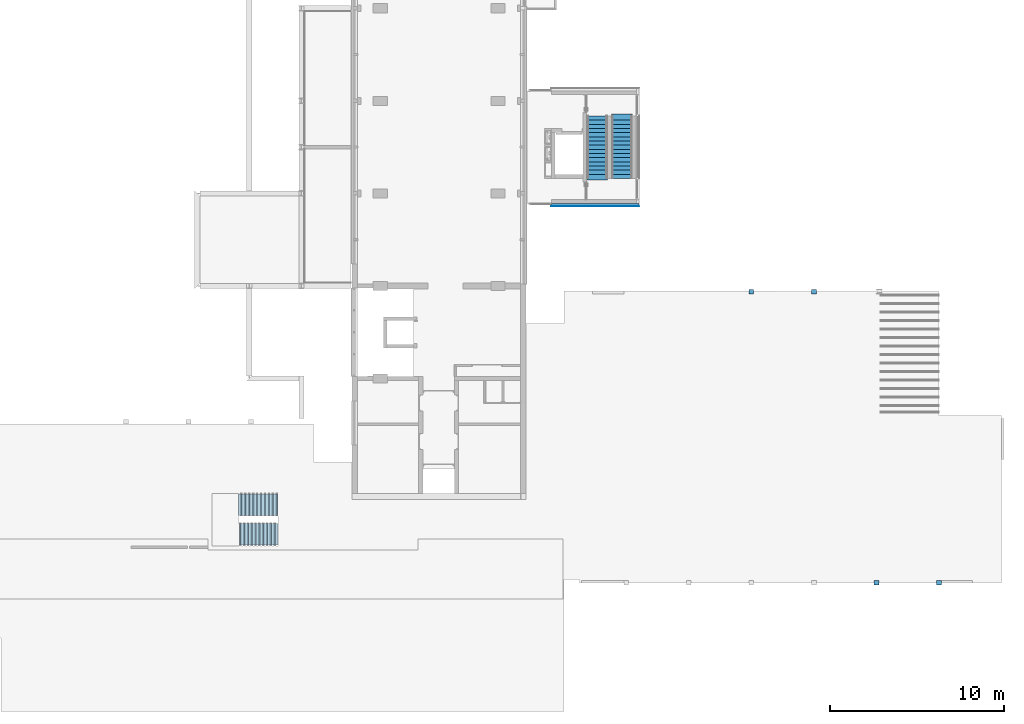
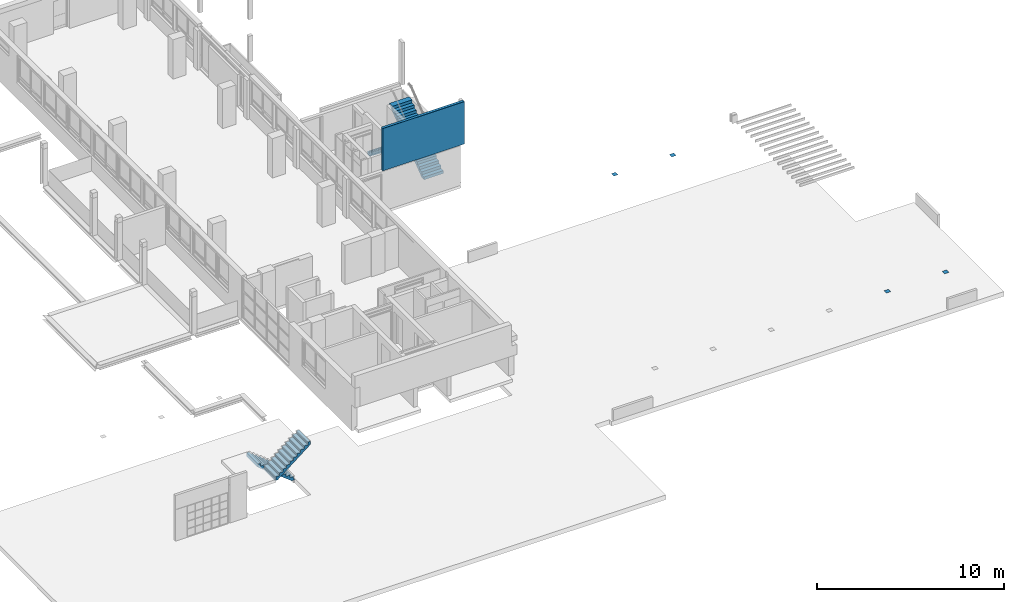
# One storey, part 14 of 22: 4 stair flights, 4 walls, 3 building element parts, 5 elements without a shape of their own.
"""IFC2X3 building model written with IfcOpenShell, lengths in millimetres."""

from ifc_helpers import new_model, entity, si_unit, converted_unit, derived_unit, money_unit, direction, frame, origin_with_axes, place, context, subcontext, project, spatial, faceted_brep, material, type_object, element, aggregate, save


model = new_model("IFC2X3")

# Units and contexts
model_context = context("Model", 3, precision=0.01, world=origin_with_axes(), true_north=direction((0.0, 1.0)))
body_context = subcontext(model_context, "Body", "Model", "MODEL_VIEW")
ifc_project = project(units=[si_unit("LENGTHUNIT", "METRE", prefix="MILLI"), si_unit("AREAUNIT", "SQUARE_METRE"), si_unit("VOLUMEUNIT", "CUBIC_METRE"), converted_unit("PLANEANGLEUNIT", "DEGREE", entity("IfcPlaneAngleMeasure", 0.0174532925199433), si_unit("PLANEANGLEUNIT", "RADIAN"), dimensions=[0, 0, 0, 0, 0, 0, 0]), money_unit("EUR"), converted_unit("TIMEUNIT", "Year", entity("IfcTimeMeasure", 31557600.0), si_unit("TIMEUNIT", "SECOND"), dimensions=[0, 0, 1, 0, 0, 0, 0]), si_unit("MASSUNIT", "GRAM", prefix="KILO"), si_unit("THERMODYNAMICTEMPERATUREUNIT", "DEGREE_CELSIUS"), si_unit("LUMINOUSINTENSITYUNIT", "LUMEN"), si_unit("ENERGYUNIT", "JOULE", prefix="MEGA"), derived_unit("THERMALCONDUCTANCEUNIT", [(si_unit("POWERUNIT", "WATT"), 1), (si_unit("LENGTHUNIT", "METRE"), -1), (si_unit("THERMODYNAMICTEMPERATUREUNIT", "KELVIN"), -1)]), derived_unit("SPECIFICHEATCAPACITYUNIT", [(si_unit("ENERGYUNIT", "JOULE"), 1), (si_unit("MASSUNIT", "GRAM", prefix="KILO"), -1), (si_unit("THERMODYNAMICTEMPERATUREUNIT", "KELVIN"), -1)]), derived_unit("MASSDENSITYUNIT", [(si_unit("MASSUNIT", "GRAM", prefix="KILO"), 1), (si_unit("VOLUMEUNIT", "CUBIC_METRE"), -1)])], contexts=[model_context])

# Site, building, storey
site_placement = place(None, origin_with_axes())
site = spatial("IfcSite", under=ifc_project, at=site_placement, Name="Site", CompositionType="ELEMENT")
building_placement = place(site_placement, origin_with_axes())
building = spatial("IfcBuilding", under=site, at=building_placement, Name="Naam gebouw", CompositionType="ELEMENT")
storey_placement = place(building_placement, frame((0.0, 0.0, 8690.0), z_axis=(0.0, 0.0, 1.0), x_axis=(1.0, 0.0, 0.0)))
storey = spatial("IfcBuildingStorey", under=building, at=storey_placement, Name="2e verdieping V", CompositionType="ELEMENT", Elevation=8690.0)

# Walls
ifc_material_1 = material(Name="ALG - CONSTRUCTIEF")
wall_type_1 = type_object("IfcWallType", Name="ALG - CONSTRUCTIEF 260", PredefinedType="NOTDEFINED")
for number, where, z_axis, x_axis, name in (
    (1, (50537.49999999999, 10730.9124251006, 1500.0), (0.0, 0.0, 1.0), (-1.0, 0.0, 0.0), "_Wand-x"),
    (2, (54137.49999999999, 10730.9124251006, 1500.0), (0.0, 0.0, 1.0), (-1.0, 0.0, 0.0), "_Wand-x"),
):
    element("IfcWall", number, at=place(storey_placement, frame(where, z_axis=z_axis, x_axis=x_axis)), inside=storey, type_object=wall_type_1, material=ifc_material_1, Name=name, context=body_context, shape_type="Brep", body=[
        faceted_brep([(0.0, -259.9999999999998, 0.9999999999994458), (275.0000000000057, -259.9999999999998, 0.9999999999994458), (275.0000000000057, 0.0, 0.9999999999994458), (0.0, 0.0, 0.9999999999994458), (0.0, -259.9999999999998, 0.0), (275.0000000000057, -259.9999999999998, 0.0), (275.0000000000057, 0.0, 0.0), (0.0, 0.0, 0.0)], [[[0, 1, 2, 3]], [[4, 5, 1, 0]], [[2, 1, 5, 6]], [[3, 2, 6, 7]], [[4, 0, 3, 7]], [[7, 6, 5, 4]]]),
    ])
for number, where, z_axis, x_axis, name in (
    (3, (43337.49999999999, 27765.91242510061, 1500.0), (0.0, 0.0, 1.0), (-1.0, 0.0, 0.0), "_Wand-x"),
    (4, (46937.49999999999, 27765.91242510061, 1500.0), (0.0, 0.0, 1.0), (-1.0, 0.0, 0.0), "_Wand-x"),
):
    element("IfcWall", number, at=place(storey_placement, frame(where, z_axis=z_axis, x_axis=x_axis)), inside=storey, type_object=wall_type_1, material=ifc_material_1, Name=name, context=body_context, shape_type="Brep", body=[
        faceted_brep([(0.0, 260.0000000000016, 0.0), (275.0000000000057, 260.0000000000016, 0.0), (275.0000000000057, 0.0, 0.0), (0.0, 0.0, 0.0), (0.0, 260.0000000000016, 0.9999999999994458), (275.0000000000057, 260.0000000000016, 0.9999999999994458), (275.0000000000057, 0.0, 0.9999999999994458), (0.0, 0.0, 0.9999999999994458)], [[[0, 1, 2, 3]], [[4, 5, 1, 0]], [[2, 1, 5, 6]], [[3, 2, 6, 7]], [[4, 0, 3, 7]], [[7, 6, 5, 4]]]),
    ])

# Stair, stair flight
stair_1_placement = place(storey_placement, frame((13740.50051848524, 14274.60803964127, 710.0000000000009), z_axis=(0.0, 0.0, 1.0), x_axis=(-1.0, 0.0, 0.0)))
stair_1 = element("IfcStair", 5, at=stair_1_placement, inside=storey, Name="_Trap-x", ShapeType="NOTDEFINED")
ifc_material_2 = material(Name="Beton C")
stair_flight_type_1 = type_object("IfcStairFlightType", Name="IfcStairFlight", PredefinedType="NOTDEFINED")
stair_flight_1_placement = place(stair_1_placement, origin_with_axes())
stair_flight_1 = element("IfcStairFlight", 6, at=stair_flight_1_placement, type_object=stair_flight_type_1, material=ifc_material_2, Name="_Trapsegment-x", context=body_context, shape_type="Brep", body=[
    faceted_brep([(0.0, 0.0, -99.99999999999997), (0.0, 1240.0, -99.99999999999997), (0.0, 1240.0, -38.00000000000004), (0.0, 0.0, -38.00000000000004), (-172.920929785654, 1240.0, -99.99999999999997), (-172.9209297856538, 0.0, -99.99999999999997), (-2053.333333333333, 1240.0, 1395.782593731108), (-2126.666666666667, 1240.0, 1454.115927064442), (-2200.0, 1240.0, 1512.449260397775), (-2200.0, 1240.0, 1712.0), (-2038.1, 1240.0, 1712.0), (-2038.1, 1240.0, 1537.0), (-1818.1, 1240.0, 1537.0), (-1818.1, 1240.0, 1362.0), (-1598.1, 1240.0, 1362.0), (-1598.1, 1240.0, 1187.0), (-1378.1, 1240.0, 1187.0), (-1378.1, 1240.0, 1012.0), (-1158.1, 1240.0, 1012.0), (-1158.1, 1240.0, 837.0), (-938.1000000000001, 1240.0, 837.0), (-938.1000000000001, 1240.0, 661.9999999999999), (-718.1000000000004, 1240.0, 661.9999999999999), (-718.1000000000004, 1240.0, 486.9999999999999), (-498.1000000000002, 1240.0, 486.9999999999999), (-498.1000000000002, 1240.0, 312.0000000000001), (-278.1000000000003, 1240.0, 312.0000000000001), (-278.1000000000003, 1240.0, 137.0), (-58.10000000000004, 1240.0, 137.0), (-58.10000000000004, 1240.0, -38.00000000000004), (-220.0000000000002, 1240.0, -62.55073960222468), (-293.3333333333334, 1240.0, -4.217406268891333), (-366.6666666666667, 1240.0, 54.11592706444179), (-440.0000000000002, 1240.0, 112.4492603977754), (-513.3333333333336, 1240.0, 170.7825937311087), (-586.6666666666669, 1240.0, 229.115927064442), (-660.0000000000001, 1240.0, 287.4492603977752), (-733.3333333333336, 1240.0, 345.7825937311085), (-806.6666666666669, 1240.0, 404.1159270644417), (-880.0000000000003, 1240.0, 462.4492603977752), (-953.3333333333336, 1240.0, 520.7825937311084), (-1026.666666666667, 1240.0, 579.1159270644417), (-1100.0, 1240.0, 637.4492603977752), (-1173.333333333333, 1240.0, 695.7825937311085), (-1246.666666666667, 1240.0, 754.1159270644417), (-1320.0, 1240.0, 812.4492603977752), (-1393.333333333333, 1240.0, 870.7825937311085), (-1466.666666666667, 1240.0, 929.1159270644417), (-1540.0, 1240.0, 987.4492603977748), (-1613.333333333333, 1240.0, 1045.782593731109), (-1686.666666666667, 1240.0, 1104.115927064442), (-1760.0, 1240.0, 1162.449260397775), (-1833.333333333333, 1240.0, 1220.782593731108), (-1906.666666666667, 1240.0, 1279.115927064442), (-1980.0, 1240.0, 1337.449260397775), (-58.10000000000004, 0.0, -38.00000000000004), (-58.10000000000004, 0.0, 137.0), (-278.1, 0.0, 137.0), (-278.1, 0.0, 312.0000000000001), (-498.1, 0.0, 312.0000000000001), (-498.1, 0.0, 486.9999999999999), (-718.1000000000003, 0.0, 486.9999999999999), (-718.1000000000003, 0.0, 661.9999999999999), (-938.1, 0.0, 661.9999999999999), (-938.1, 0.0, 837.0), (-1158.1, 0.0, 837.0), (-1158.1, 0.0, 1012.0), (-1378.1, 0.0, 1012.0), (-1378.1, 0.0, 1187.0), (-1598.1, 0.0, 1187.0), (-1598.1, 0.0, 1362.0), (-1818.1, 0.0, 1362.0), (-1818.1, 0.0, 1537.0), (-2038.1, 0.0, 1537.0), (-2038.1, 0.0, 1712.0), (-2200.0, 0.0, 1712.0), (-2200.0, 0.0, 1512.449260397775), (-2126.666666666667, 0.0, 1454.115927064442), (-2053.333333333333, 0.0, 1395.782593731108), (-1980.0, 0.0, 1337.449260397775), (-1906.666666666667, 0.0, 1279.115927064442), (-1833.333333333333, 0.0, 1220.782593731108), (-1760.0, 0.0, 1162.449260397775), (-1686.666666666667, 0.0, 1104.115927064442), (-1613.333333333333, 0.0, 1045.782593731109), (-1540.0, 0.0, 987.4492603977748), (-1466.666666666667, 0.0, 929.1159270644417), (-1393.333333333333, 0.0, 870.7825937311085), (-1320.0, 0.0, 812.4492603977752), (-1246.666666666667, 0.0, 754.1159270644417), (-1173.333333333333, 0.0, 695.7825937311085), (-1100.0, 0.0, 637.4492603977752), (-1026.666666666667, 0.0, 579.1159270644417), (-953.3333333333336, 0.0, 520.7825937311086), (-880.0000000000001, 0.0, 462.4492603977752), (-806.6666666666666, 0.0, 404.1159270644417), (-733.3333333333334, 0.0, 345.7825937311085), (-660.0000000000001, 0.0, 287.4492603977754), (-586.6666666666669, 0.0, 229.115927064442), (-513.3333333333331, 0.0, 170.7825937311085), (-439.9999999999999, 0.0, 112.4492603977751), (-366.6666666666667, 0.0, 54.11592706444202), (-293.3333333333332, 0.0, -4.217406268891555), (-220.0, 0.0, -62.55073960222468)], [[[0, 1, 2, 3]], [[4, 1, 0, 5]], [[6, 7, 8, 9, 10, 11, 12, 13, 14, 15, 16, 17, 18, 19, 20, 21, 22, 23, 24, 25, 26, 27, 28, 29, 2, 1, 4, 30, 31, 32, 33, 34, 35, 36, 37, 38, 39, 40, 41, 42, 43, 44, 45, 46, 47, 48, 49, 50, 51, 52, 53, 54]], [[29, 55, 3, 2]], [[5, 0, 3, 55, 56, 57, 58, 59, 60, 61, 62, 63, 64, 65, 66, 67, 68, 69, 70, 71, 72, 73, 74, 75, 76, 77, 78, 79, 80, 81, 82, 83, 84, 85, 86, 87, 88, 89, 90, 91, 92, 93, 94, 95, 96, 97, 98, 99, 100, 101, 102, 103]], [[103, 30, 4, 5]], [[77, 7, 6, 78]], [[76, 8, 7, 77]], [[9, 8, 76, 75]], [[9, 75, 74, 10]], [[74, 73, 11, 10]], [[73, 72, 12, 11]], [[72, 71, 13, 12]], [[71, 70, 14, 13]], [[70, 69, 15, 14]], [[69, 68, 16, 15]], [[68, 67, 17, 16]], [[67, 66, 18, 17]], [[66, 65, 19, 18]], [[65, 64, 20, 19]], [[64, 63, 21, 20]], [[63, 62, 22, 21]], [[62, 61, 23, 22]], [[61, 60, 24, 23]], [[60, 59, 25, 24]], [[59, 58, 26, 25]], [[58, 57, 27, 26]], [[57, 56, 28, 27]], [[56, 55, 29, 28]], [[102, 31, 30, 103]], [[101, 32, 31, 102]], [[100, 33, 32, 101]], [[99, 34, 33, 100]], [[98, 35, 34, 99]], [[97, 36, 35, 98]], [[96, 37, 36, 97]], [[95, 38, 37, 96]], [[94, 39, 38, 95]], [[93, 40, 39, 94]], [[92, 41, 40, 93]], [[91, 42, 41, 92]], [[90, 43, 42, 91]], [[89, 44, 43, 90]], [[88, 45, 44, 89]], [[87, 46, 45, 88]], [[86, 47, 46, 87]], [[85, 48, 47, 86]], [[84, 49, 48, 85]], [[83, 50, 49, 84]], [[82, 51, 50, 83]], [[81, 52, 51, 82]], [[80, 53, 52, 81]], [[79, 54, 53, 80]], [[78, 6, 54, 79]]]),
])
aggregate(stair_1, [stair_flight_1])

stair_2_placement = place(storey_placement, frame((15940.50051848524, 14745.86936824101, -1039.999999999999), z_axis=(0.0, 0.0, 1.0), x_axis=(1.0, 0.0, 0.0)))
stair_2 = element("IfcStair", 7, at=stair_2_placement, inside=storey, Name="_Trap-x", ShapeType="NOTDEFINED")
stair_flight_2_placement = place(stair_2_placement, origin_with_axes())
stair_flight_2 = element("IfcStairFlight", 8, at=stair_flight_2_placement, type_object=stair_flight_type_1, material=ifc_material_2, Name="_Trapsegment-x", context=body_context, shape_type="Brep", body=[
    faceted_brep([(0.0, 0.0, -99.99999999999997), (0.0, 1240.0, -99.99999999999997), (0.0, 1240.0, -38.00000000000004), (0.0, 0.0, -38.00000000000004), (-174.2201308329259, 1240.0, -99.99999999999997), (-174.2201308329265, 0.0, -99.99999999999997), (-2118.666666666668, 1240.000000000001, 1399.02265978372), (-2194.333333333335, 1240.000000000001, 1457.355993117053), (-2270.000000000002, 1240.000000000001, 1515.689326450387), (-2270.000000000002, 1240.000000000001, 1712.0), (-2101.100000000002, 1240.000000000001, 1712.0), (-2101.100000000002, 1240.000000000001, 1537.0), (-1874.100000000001, 1240.000000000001, 1537.0), (-1874.100000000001, 1240.000000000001, 1362.0), (-1647.100000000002, 1240.000000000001, 1362.0), (-1647.100000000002, 1240.000000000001, 1187.0), (-1420.100000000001, 1240.000000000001, 1187.0), (-1420.100000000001, 1240.000000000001, 1012.0), (-1193.100000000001, 1240.000000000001, 1012.0), (-1193.100000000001, 1240.000000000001, 837.0), (-966.1000000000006, 1240.000000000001, 837.0), (-966.1000000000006, 1240.000000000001, 661.9999999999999), (-739.1000000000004, 1240.000000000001, 661.9999999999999), (-739.1000000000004, 1240.000000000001, 486.9999999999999), (-512.1, 1240.0, 486.9999999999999), (-512.1, 1240.0, 312.0000000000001), (-285.0999999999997, 1240.0, 312.0000000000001), (-285.0999999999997, 1240.0, 137.0), (-58.09999999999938, 1240.0, 137.0), (-58.09999999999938, 1240.0, -38.00000000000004), (-226.9999999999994, 1240.0, -59.31067354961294), (-302.6666666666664, 1240.000000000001, -0.9773402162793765), (-378.3333333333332, 1240.000000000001, 57.35599311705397), (-453.9999999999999, 1240.000000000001, 115.6893264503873), (-529.6666666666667, 1240.000000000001, 174.0226597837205), (-605.3333333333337, 1240.000000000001, 232.355993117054), (-681.0000000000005, 1240.000000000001, 290.6893264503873), (-756.6666666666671, 1240.000000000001, 349.0226597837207), (-832.3333333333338, 1240.000000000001, 407.3559931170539), (-908.0000000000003, 1240.000000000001, 465.6893264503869), (-983.6666666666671, 1240.000000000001, 524.0226597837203), (-1059.333333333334, 1240.000000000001, 582.3559931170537), (-1135.000000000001, 1240.000000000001, 640.6893264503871), (-1210.666666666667, 1240.000000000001, 699.0226597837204), (-1286.333333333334, 1240.000000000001, 757.3559931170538), (-1362.000000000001, 1240.000000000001, 815.6893264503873), (-1437.666666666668, 1240.000000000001, 874.0226597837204), (-1513.333333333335, 1240.000000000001, 932.3559931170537), (-1589.000000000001, 1240.000000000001, 990.689326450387), (-1664.666666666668, 1240.000000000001, 1049.02265978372), (-1740.333333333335, 1240.000000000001, 1107.355993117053), (-1816.000000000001, 1240.000000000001, 1165.689326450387), (-1891.666666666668, 1240.000000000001, 1224.02265978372), (-1967.333333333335, 1240.000000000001, 1282.355993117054), (-2043.000000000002, 1240.000000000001, 1340.689326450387), (-58.10000000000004, 0.0, -38.00000000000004), (-58.10000000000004, 0.0, 137.0), (-285.1000000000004, 0.0, 137.0), (-285.1000000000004, 0.0, 312.0000000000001), (-512.1000000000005, 0.0, 312.0000000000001), (-512.1000000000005, 0.0, 486.9999999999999), (-739.1000000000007, 0.0, 486.9999999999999), (-739.1000000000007, 0.0, 661.9999999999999), (-966.100000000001, 0.0, 661.9999999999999), (-966.100000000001, 0.0, 837.0), (-1193.100000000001, 0.0, 837.0), (-1193.100000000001, 0.0, 1012.0), (-1420.100000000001, 0.0, 1012.0), (-1420.100000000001, 0.0, 1187.0), (-1647.100000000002, 0.0, 1187.0), (-1647.100000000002, 0.0, 1362.0), (-1874.100000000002, 0.0, 1362.0), (-1874.100000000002, 0.0, 1537.0), (-2101.100000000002, 0.0, 1537.0), (-2101.100000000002, 0.0, 1712.0), (-2270.000000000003, 0.0, 1712.0), (-2270.000000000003, 0.0, 1515.689326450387), (-2194.333333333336, 0.0, 1457.355993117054), (-2118.666666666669, 0.0, 1399.022659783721), (-2043.000000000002, 0.0, 1340.689326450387), (-1967.333333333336, 0.0, 1282.355993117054), (-1891.666666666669, 0.0, 1224.02265978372), (-1816.000000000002, 0.0, 1165.689326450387), (-1740.333333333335, 0.0, 1107.355993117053), (-1664.666666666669, 0.0, 1049.02265978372), (-1589.000000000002, 0.0, 990.6893264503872), (-1513.333333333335, 0.0, 932.3559931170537), (-1437.666666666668, 0.0, 874.0226597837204), (-1362.000000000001, 0.0, 815.6893264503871), (-1286.333333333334, 0.0, 757.3559931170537), (-1210.666666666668, 0.0, 699.0226597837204), (-1135.000000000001, 0.0, 640.6893264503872), (-1059.333333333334, 0.0, 582.3559931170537), (-983.6666666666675, 0.0, 524.0226597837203), (-908.0000000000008, 0.0, 465.6893264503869), (-832.3333333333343, 0.0, 407.3559931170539), (-756.6666666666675, 0.0, 349.0226597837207), (-681.0000000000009, 0.0, 290.6893264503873), (-605.3333333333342, 0.0, 232.355993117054), (-529.6666666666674, 0.0, 174.0226597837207), (-454.0000000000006, 0.0, 115.6893264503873), (-378.3333333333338, 0.0, 57.35599311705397), (-302.6666666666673, 0.0, -0.9773402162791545), (-227.0000000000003, 0.0, -59.31067354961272)], [[[0, 1, 2, 3]], [[4, 1, 0, 5]], [[6, 7, 8, 9, 10, 11, 12, 13, 14, 15, 16, 17, 18, 19, 20, 21, 22, 23, 24, 25, 26, 27, 28, 29, 2, 1, 4, 30, 31, 32, 33, 34, 35, 36, 37, 38, 39, 40, 41, 42, 43, 44, 45, 46, 47, 48, 49, 50, 51, 52, 53, 54]], [[29, 55, 3, 2]], [[5, 0, 3, 55, 56, 57, 58, 59, 60, 61, 62, 63, 64, 65, 66, 67, 68, 69, 70, 71, 72, 73, 74, 75, 76, 77, 78, 79, 80, 81, 82, 83, 84, 85, 86, 87, 88, 89, 90, 91, 92, 93, 94, 95, 96, 97, 98, 99, 100, 101, 102, 103]], [[103, 30, 4, 5]], [[77, 7, 6, 78]], [[76, 8, 7, 77]], [[9, 8, 76, 75]], [[9, 75, 74, 10]], [[74, 73, 11, 10]], [[73, 72, 12, 11]], [[72, 71, 13, 12]], [[71, 70, 14, 13]], [[70, 69, 15, 14]], [[69, 68, 16, 15]], [[68, 67, 17, 16]], [[67, 66, 18, 17]], [[66, 65, 19, 18]], [[65, 64, 20, 19]], [[64, 63, 21, 20]], [[63, 62, 22, 21]], [[62, 61, 23, 22]], [[61, 60, 24, 23]], [[60, 59, 25, 24]], [[59, 58, 26, 25]], [[58, 57, 27, 26]], [[57, 56, 28, 27]], [[56, 55, 29, 28]], [[102, 31, 30, 103]], [[101, 32, 31, 102]], [[100, 33, 32, 101]], [[99, 34, 33, 100]], [[98, 35, 34, 99]], [[97, 36, 35, 98]], [[96, 37, 36, 97]], [[95, 38, 37, 96]], [[94, 39, 38, 95]], [[93, 40, 39, 94]], [[92, 41, 40, 93]], [[91, 42, 41, 92]], [[90, 43, 42, 91]], [[89, 44, 43, 90]], [[88, 45, 44, 89]], [[87, 46, 45, 88]], [[86, 47, 46, 87]], [[85, 48, 47, 86]], [[84, 49, 48, 85]], [[83, 50, 49, 84]], [[82, 51, 50, 83]], [[81, 52, 51, 82]], [[80, 53, 52, 81]], [[79, 54, 53, 80]], [[78, 6, 54, 79]]]),
])
aggregate(stair_2, [stair_flight_2])

stair_3_placement = place(storey_placement, frame((0.0, 0.0, -8690.0), z_axis=(0.0, 0.0, 1.0), x_axis=(1.0, 0.0, 0.0)))
stair_3 = element("IfcStair", 9, at=stair_3_placement, inside=storey, Name="Precast Stair:Stair", ObjectType="Precast Stair:24_trap - prefab", ShapeType="NOTDEFINED")
ifc_material_3 = material(Name="beton")
stair_flight_type_2 = type_object("IfcStairFlightType", Name="Monolithic Run:prefab trap", PredefinedType="STRAIGHT")
stair_flight_3_placement = place(stair_3_placement, frame((34923.00000006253, 34045.91242631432, 8690.0), z_axis=(0.0, 0.0, 1.0), x_axis=(0.0, 1.0, 0.0)))
stair_flight_3 = element("IfcStairFlight", 10, at=stair_flight_3_placement, type_object=stair_flight_type_2, material=ifc_material_3, Name="Precast Stair:Stair:2462923 Run 1", RiserHeight=0.605862, TreadLength=0.787402, context=body_context, shape_type="Brep", body=[
    faceted_brep([(3460.0, 0.0, 184.66666666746), (3700.0, 0.0, 184.66666666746), (3700.0, 1200.0, 184.66666666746), (3460.0, 1200.0, 184.66666666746), (3460.0, 0.0, 0.0), (3700.0, 0.0, 0.0), (3700.0, 1200.0, 0.0), (3460.0, 1200.0, 0.0), (3460.0, 1200.0, 369.33333333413), (3460.0, 0.0, 369.33333333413), (3220.0, 0.0, 369.33333333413), (3220.0, 0.0, 180.06894961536), (3454.02462765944, 0.0, 0.0), (3454.02462765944, 1200.0, 0.0), (3220.0, 1200.0, 180.06894961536), (3220.0, 1200.0, 369.33333333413), (3220.0, 0.0, 554.0), (2980.0, 0.0, 554.0), (2980.0, 0.0, 364.73561628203), (2740.0, 0.0, 549.4022829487), (2500.0, 0.0, 734.06894961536), (2260.0, 0.0, 918.7356162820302), (2020.0, 0.0, 1103.4022829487), (1780.0, 0.0, 1288.06894961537), (1540.0, 0.0, 1472.73561628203), (1300.0, 0.0, 1657.4022829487), (1060.0, 0.0, 1842.06894961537), (820.0000000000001, 0.0, 2026.73561628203), (580.0, 0.0, 2211.4022829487), (340.0, 0.0, 2396.06894961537), (100.0, 0.0, 2580.73561628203), (100.0, 1200.0, 2580.73561628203), (340.0, 1200.0, 2396.06894961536), (580.0, 1200.0, 2211.4022829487), (820.0000000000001, 1200.0, 2026.73561628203), (1060.0, 1200.0, 1842.06894961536), (1300.0, 1200.0, 1657.4022829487), (1540.0, 1200.0, 1472.73561628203), (1780.0, 1200.0, 1288.06894961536), (2020.0, 1200.0, 1103.40228294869), (2260.0, 1200.0, 918.7356162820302), (2500.0, 1200.0, 734.06894961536), (2740.0, 1200.0, 549.40228294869), (2980.0, 1200.0, 364.73561628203), (2980.0, 1200.0, 554.0), (3220.0, 1200.0, 554.0), (2980.0, 0.0, 738.66666666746), (2740.0, 0.0, 738.66666666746), (2740.0, 0.0, 923.3333333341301), (2500.0, 0.0, 923.3333333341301), (2500.0, 0.0, 1108.0), (2260.0, 0.0, 1108.0), (2260.0, 0.0, 1292.66666666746), (2020.0, 0.0, 1292.66666666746), (2020.0, 0.0, 1477.33333333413), (1780.0, 0.0, 1477.33333333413), (1780.0, 0.0, 1662.0), (1540.0, 0.0, 1662.0), (1540.0, 0.0, 1846.66666666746), (1300.0, 0.0, 1846.66666666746), (1300.0, 0.0, 2031.33333333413), (1060.0, 0.0, 2031.33333333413), (1060.0, 0.0, 2216.0), (820.0000000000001, 0.0, 2216.0), (820.0000000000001, 0.0, 2400.66666666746), (580.0, 0.0, 2400.66666666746), (580.0, 0.0, 2585.33333333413), (340.0, 0.0, 2585.33333333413), (340.0, 0.0, 2770.0), (0.0, 0.0, 2770.0), (0.0, 0.0, 2670.0), (100.0, 0.0, 2670.0), (100.0, 1200.0, 2670.0), (0.0, 1200.0, 2770.0), (340.0, 1200.0, 2770.0), (340.0, 1200.0, 2585.33333333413), (0.0, 1200.0, 2670.0), (580.0, 1200.0, 2585.33333333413), (580.0, 1200.0, 2400.66666666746), (820.0000000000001, 1200.0, 2400.66666666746), (820.0000000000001, 1200.0, 2216.0), (1060.0, 1200.0, 2216.0), (1060.0, 1200.0, 2031.33333333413), (1300.0, 1200.0, 2031.33333333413), (1300.0, 1200.0, 1846.66666666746), (1540.0, 1200.0, 1846.66666666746), (1540.0, 1200.0, 1662.0), (1780.0, 1200.0, 1662.0), (1780.0, 1200.0, 1477.33333333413), (2020.0, 1200.0, 1477.33333333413), (2020.0, 1200.0, 1292.66666666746), (2260.0, 1200.0, 1292.66666666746), (2260.0, 1200.0, 1108.0), (2500.0, 1200.0, 1108.0), (2500.0, 1200.0, 923.3333333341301), (2740.0, 1200.0, 923.3333333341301), (2740.0, 1200.0, 738.66666666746), (2980.0, 1200.0, 738.66666666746)], [[[0, 1, 2, 3]], [[1, 0, 4, 5]], [[2, 1, 5, 6]], [[3, 2, 6, 7]], [[0, 3, 8, 9]], [[4, 0, 9, 10, 11, 12]], [[5, 4, 12, 13, 7, 6]], [[3, 7, 13, 14, 15, 8]], [[10, 9, 8, 15]], [[16, 17, 18, 11, 10]], [[13, 12, 11, 18, 19, 20, 21, 22, 23, 24, 25, 26, 27, 28, 29, 30, 31, 32, 33, 34, 35, 36, 37, 38, 39, 40, 41, 42, 43, 14]], [[44, 45, 15, 14, 43]], [[10, 15, 45, 16]], [[17, 16, 45, 44]], [[46, 47, 19, 18, 17]], [[48, 49, 20, 19, 47]], [[50, 51, 21, 20, 49]], [[52, 53, 22, 21, 51]], [[54, 55, 23, 22, 53]], [[56, 57, 24, 23, 55]], [[58, 59, 25, 24, 57]], [[60, 61, 26, 25, 59]], [[62, 63, 27, 26, 61]], [[64, 65, 28, 27, 63]], [[66, 67, 29, 28, 65]], [[68, 69, 70, 71, 30, 29, 67]], [[31, 30, 71, 72]], [[73, 74, 75, 32, 31, 72, 76]], [[75, 77, 78, 33, 32]], [[78, 79, 80, 34, 33]], [[80, 81, 82, 35, 34]], [[82, 83, 84, 36, 35]], [[84, 85, 86, 37, 36]], [[86, 87, 88, 38, 37]], [[88, 89, 90, 39, 38]], [[90, 91, 92, 40, 39]], [[92, 93, 94, 41, 40]], [[94, 95, 96, 42, 41]], [[96, 97, 44, 43, 42]], [[17, 44, 97, 46]], [[47, 46, 97, 96]], [[49, 48, 95, 94]], [[47, 96, 95, 48]], [[51, 50, 93, 92]], [[49, 94, 93, 50]], [[53, 52, 91, 90]], [[51, 92, 91, 52]], [[55, 54, 89, 88]], [[53, 90, 89, 54]], [[57, 56, 87, 86]], [[55, 88, 87, 56]], [[59, 58, 85, 84]], [[57, 86, 85, 58]], [[61, 60, 83, 82]], [[59, 84, 83, 60]], [[63, 62, 81, 80]], [[61, 82, 81, 62]], [[65, 64, 79, 78]], [[63, 80, 79, 64]], [[67, 66, 77, 75]], [[65, 78, 77, 66]], [[68, 74, 73, 69]], [[76, 70, 69, 73]], [[76, 72, 71, 70]], [[67, 75, 74, 68]]]),
])
aggregate(stair_3, [stair_flight_3])

stair_4_placement = place(storey_placement, frame((0.0, 0.0, -8690.0), z_axis=(0.0, 0.0, 1.0), x_axis=(1.0, 0.0, 0.0)))
stair_4 = element("IfcStair", 11, at=stair_4_placement, inside=storey, Name="Precast Stair:Stair", ObjectType="Precast Stair:24_trap - prefab", ShapeType="NOTDEFINED")
stair_flight_4_placement = place(stair_4_placement, frame((36357.00000004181, 34145.91242629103, 8690.0), z_axis=(0.0, 0.0, 1.0), x_axis=(0.0, 1.0, 0.0)))
stair_flight_4 = element("IfcStairFlight", 12, at=stair_flight_4_placement, type_object=stair_flight_type_2, material=ifc_material_3, Name="Precast Stair:Stair:2462910 Run 1", RiserHeight=0.605862, TreadLength=0.787402, context=body_context, shape_type="Brep", body=[
    faceted_brep([(240.0, 1200.0, 184.66666666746), (0.0, 1200.0, 184.66666666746), (0.0, 0.0, 184.66666666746), (240.0, 0.0, 184.66666666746), (240.0, 1200.0, 0.0), (0.0, 1200.0, 0.0), (0.0, 0.0, 0.0), (240.0, 0.0, 0.0), (240.0, 0.0, 369.33333333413), (240.0, 1200.0, 369.33333333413), (480.0000000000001, 1200.0, 369.33333333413), (480.0000000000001, 1200.0, 180.06894961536), (245.97537234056, 1200.0, 0.0), (245.97537234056, 0.0, 0.0), (480.0000000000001, 0.0, 180.06894961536), (480.0000000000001, 0.0, 369.33333333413), (480.0000000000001, 1200.0, 554.0), (720.0000000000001, 1200.0, 554.0), (720.0000000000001, 1200.0, 364.73561628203), (960.0, 1200.0, 549.4022829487), (1200.0, 1200.0, 734.06894961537), (1440.0, 1200.0, 918.7356162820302), (1680.0, 1200.0, 1103.4022829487), (1920.0, 1200.0, 1288.06894961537), (2160.0, 1200.0, 1472.73561628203), (2400.0, 1200.0, 1657.4022829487), (2640.0, 1200.0, 1842.06894961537), (2880.0, 1200.0, 2026.73561628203), (3120.0, 1200.0, 2211.4022829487), (3360.0, 1200.0, 2396.06894961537), (3600.0, 1200.0, 2580.73561628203), (3600.0, 0.0, 2580.73561628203), (3360.0, 0.0, 2396.06894961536), (3120.0, 0.0, 2211.4022829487), (2880.0, 0.0, 2026.73561628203), (2640.0, 0.0, 1842.06894961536), (2400.0, 0.0, 1657.4022829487), (2160.0, 0.0, 1472.73561628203), (1920.0, 0.0, 1288.06894961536), (1680.0, 0.0, 1103.40228294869), (1440.0, 0.0, 918.7356162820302), (1200.0, 0.0, 734.06894961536), (960.0, 0.0, 549.40228294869), (720.0000000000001, 0.0, 364.73561628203), (720.0000000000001, 0.0, 554.0), (480.0000000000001, 0.0, 554.0), (720.0000000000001, 1200.0, 738.66666666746), (960.0, 1200.0, 738.66666666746), (960.0, 1200.0, 923.3333333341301), (1200.0, 1200.0, 923.3333333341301), (1200.0, 1200.0, 1108.0), (1440.0, 1200.0, 1108.0), (1440.0, 1200.0, 1292.66666666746), (1680.0, 1200.0, 1292.66666666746), (1680.0, 1200.0, 1477.33333333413), (1920.0, 1200.0, 1477.33333333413), (1920.0, 1200.0, 1662.0), (2160.0, 1200.0, 1662.0), (2160.0, 1200.0, 1846.66666666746), (2400.0, 1200.0, 1846.66666666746), (2400.0, 1200.0, 2031.33333333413), (2640.0, 1200.0, 2031.33333333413), (2640.0, 1200.0, 2216.0), (2880.0, 1200.0, 2216.0), (2880.0, 1200.0, 2400.66666666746), (3120.0, 1200.0, 2400.66666666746), (3120.0, 1200.0, 2585.33333333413), (3360.0, 1200.0, 2585.33333333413), (3360.0, 1200.0, 2770.0), (3700.0, 1200.0, 2770.0), (3700.0, 1200.0, 2670.0), (3600.0, 1200.0, 2670.0), (3600.0, 0.0, 2670.0), (3700.0, 0.0, 2770.0), (3360.0, 0.0, 2770.0), (3360.0, 0.0, 2585.33333333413), (3700.0, 0.0, 2670.0), (3120.0, 0.0, 2585.33333333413), (3120.0, 0.0, 2400.66666666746), (2880.0, 0.0, 2400.66666666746), (2880.0, 0.0, 2216.0), (2640.0, 0.0, 2216.0), (2640.0, 0.0, 2031.33333333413), (2400.0, 0.0, 2031.33333333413), (2400.0, 0.0, 1846.66666666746), (2160.0, 0.0, 1846.66666666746), (2160.0, 0.0, 1662.0), (1920.0, 0.0, 1662.0), (1920.0, 0.0, 1477.33333333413), (1680.0, 0.0, 1477.33333333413), (1680.0, 0.0, 1292.66666666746), (1440.0, 0.0, 1292.66666666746), (1440.0, 0.0, 1108.0), (1200.0, 0.0, 1108.0), (1200.0, 0.0, 923.3333333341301), (960.0, 0.0, 923.3333333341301), (960.0, 0.0, 738.66666666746), (720.0000000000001, 0.0, 738.66666666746)], [[[0, 1, 2, 3]], [[1, 0, 4, 5]], [[2, 1, 5, 6]], [[3, 2, 6, 7]], [[0, 3, 8, 9]], [[4, 0, 9, 10, 11, 12]], [[5, 4, 12, 13, 7, 6]], [[3, 7, 13, 14, 15, 8]], [[10, 9, 8, 15]], [[16, 17, 18, 11, 10]], [[13, 12, 11, 18, 19, 20, 21, 22, 23, 24, 25, 26, 27, 28, 29, 30, 31, 32, 33, 34, 35, 36, 37, 38, 39, 40, 41, 42, 43, 14]], [[44, 45, 15, 14, 43]], [[10, 15, 45, 16]], [[17, 16, 45, 44]], [[46, 47, 19, 18, 17]], [[48, 49, 20, 19, 47]], [[50, 51, 21, 20, 49]], [[52, 53, 22, 21, 51]], [[54, 55, 23, 22, 53]], [[56, 57, 24, 23, 55]], [[58, 59, 25, 24, 57]], [[60, 61, 26, 25, 59]], [[62, 63, 27, 26, 61]], [[64, 65, 28, 27, 63]], [[66, 67, 29, 28, 65]], [[68, 69, 70, 71, 30, 29, 67]], [[31, 30, 71, 72]], [[73, 74, 75, 32, 31, 72, 76]], [[75, 77, 78, 33, 32]], [[78, 79, 80, 34, 33]], [[80, 81, 82, 35, 34]], [[82, 83, 84, 36, 35]], [[84, 85, 86, 37, 36]], [[86, 87, 88, 38, 37]], [[88, 89, 90, 39, 38]], [[90, 91, 92, 40, 39]], [[92, 93, 94, 41, 40]], [[94, 95, 96, 42, 41]], [[96, 97, 44, 43, 42]], [[17, 44, 97, 46]], [[47, 46, 97, 96]], [[49, 48, 95, 94]], [[47, 96, 95, 48]], [[51, 50, 93, 92]], [[49, 94, 93, 50]], [[53, 52, 91, 90]], [[51, 92, 91, 52]], [[55, 54, 89, 88]], [[53, 90, 89, 54]], [[57, 56, 87, 86]], [[55, 88, 87, 56]], [[59, 58, 85, 84]], [[57, 86, 85, 58]], [[61, 60, 83, 82]], [[59, 84, 83, 60]], [[63, 62, 81, 80]], [[61, 82, 81, 62]], [[65, 64, 79, 78]], [[63, 80, 79, 64]], [[67, 66, 77, 75]], [[65, 78, 77, 66]], [[68, 74, 73, 69]], [[76, 70, 69, 73]], [[76, 72, 71, 70]], [[67, 75, 74, 68]]]),
])
aggregate(stair_4, [stair_flight_4])

# Wall, building element parts
wall_type_2 = type_object("IfcWallType", Name="Basic Wall:41_WA_stucwerk op iso 170mm", PredefinedType="STANDARD")
wall_placement = place(storey_placement, frame((31684.99999999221, 32626.41242629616, 2770.00000000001), z_axis=(0.0, 0.0, 1.0), x_axis=(1.0, 0.0, 0.0)))
wall = element("IfcWall", 13, at=wall_placement, inside=storey, type_object=wall_type_2, Name="Basic Wall:41_WA_stucwerk op iso 170mm")
ifc_material_4 = material(Name="isolatie_080_1-100")
building_element_part_1_placement = place(wall_placement, origin_with_axes())
building_element_part_1 = element("IfcBuildingElementPart", 14, at=building_element_part_1_placement, material=ifc_material_4, Name="isolatie_080_1-100", context=body_context, shape_type="Brep", body=[
    faceted_brep([(5055.000000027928, 85.49999989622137, 0.0), (5055.000000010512, -74.50000010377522, 0.0), (-8.704148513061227e-10, -74.5000000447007, 0.0), (9.983125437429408e-10, 85.49999995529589, 0.0), (5055.000000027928, 85.49999989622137, 2770.000000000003), (5055.000000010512, -74.50000010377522, 2770.000000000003), (-8.704148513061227e-10, -74.5000000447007, 2770.000000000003), (9.983125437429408e-10, 85.49999995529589, 2770.000000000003)], [[[0, 1, 2, 3]], [[1, 0, 4, 5]], [[1, 5, 6, 2]], [[7, 3, 2, 6]], [[4, 0, 3, 7]], [[5, 4, 7, 6]]]),
])
ifc_material_5 = material(Name="stucwerk - gevel gebouw V RAL 7044")
building_element_part_2_placement = place(wall_placement, origin_with_axes())
building_element_part_2 = element("IfcBuildingElementPart", 15, at=building_element_part_2_placement, material=ifc_material_5, Name="stucwerk - gevel gebouw V RAL 7044", context=body_context, shape_type="Brep", body=[
    faceted_brep([(5065.000000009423, -84.50000010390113, 0.0), (-9.876544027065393e-10, -84.50000004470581, 0.0), (-8.704148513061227e-10, -74.5000000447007, 0.0), (5065.000000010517, -74.50000010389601, 0.0), (5065.000000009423, -84.50000010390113, 2770.000000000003), (-9.876544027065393e-10, -84.50000004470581, 2770.000000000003), (-8.704148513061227e-10, -74.5000000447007, 2770.000000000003), (5065.000000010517, -74.50000010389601, 2770.000000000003)], [[[0, 1, 2, 3]], [[4, 5, 1, 0]], [[2, 1, 5, 6]], [[3, 2, 6, 7]], [[3, 7, 4, 0]], [[7, 6, 5, 4]]]),
])
ifc_material_6 = material(Name="Verflaag ral 7044  Zijdengrijs Isostuc")
building_element_part_3_placement = place(wall_placement, origin_with_axes())
building_element_part_3 = element("IfcBuildingElementPart", 16, at=building_element_part_3_placement, material=ifc_material_6, Name="Verflaag ral 7044  Zijdengrijs Isostuc", context=body_context, shape_type="Brep", body=[
    faceted_brep([(5066.000000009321, -85.50000010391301, 0.0), (-9.983125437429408e-10, -85.50000004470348, 0.0), (-9.876544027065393e-10, -84.50000004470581, 0.0), (5066.000000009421, -84.50000010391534, 0.0), (5066.000000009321, -85.50000010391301, 2770.000000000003), (-9.983125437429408e-10, -85.50000004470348, 2770.000000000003), (-9.876544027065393e-10, -84.50000004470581, 2770.000000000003), (5066.000000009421, -84.50000010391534, 2770.000000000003)], [[[0, 1, 2, 3]], [[4, 5, 1, 0]], [[2, 1, 5, 6]], [[3, 2, 6, 7]], [[3, 7, 4, 0]], [[7, 6, 5, 4]]]),
])
aggregate(wall, [building_element_part_1, building_element_part_2, building_element_part_3])

save(model, "model.ifc")
